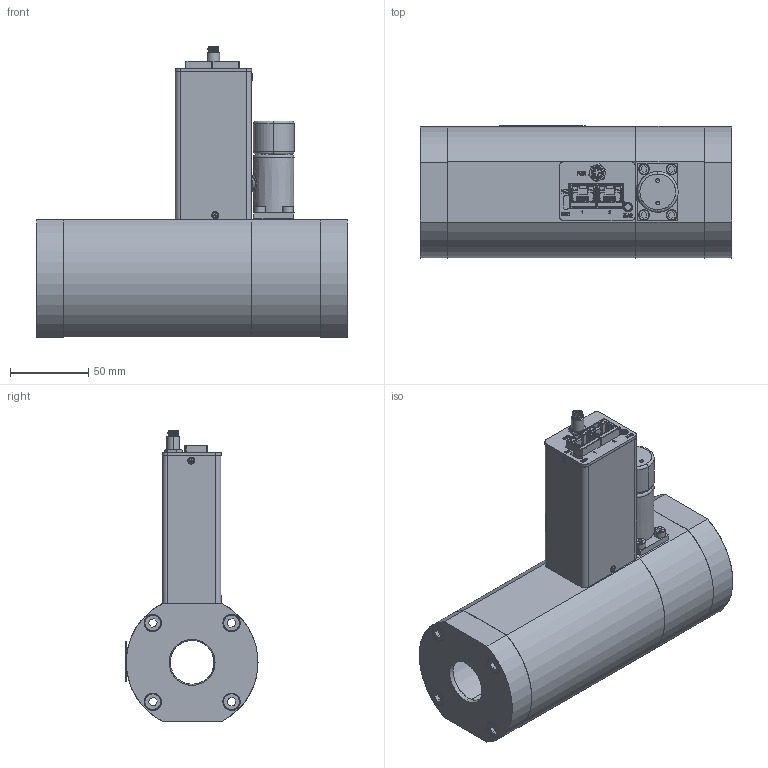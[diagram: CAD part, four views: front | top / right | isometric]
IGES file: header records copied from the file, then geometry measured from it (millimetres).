
Start section: SolidWorks IGES file using analytic representation for surfaces
Global section: file name: G:\Engineering\CAD MODELS FOR SALES\CAD MODEL STORAGE\SLA\SLA5853\IGES\SLA5853-7-2G-2-A-REVB.IGS; native system: SolidWorks 2020; preprocessor: SolidWorks 2020; author: SThen; date: 210812.113335; units: inch
Bounding box: 198.8 x 84.17 x 184.93 mm (x, y, z)
Surface area: 186302.3 mm2 (no closed solid volume)
Topology: 0 solids, 0 shells, 2377 faces, 21870 edges, 21825 vertices
Faces by surface type: bspline 1715, revolution 662
